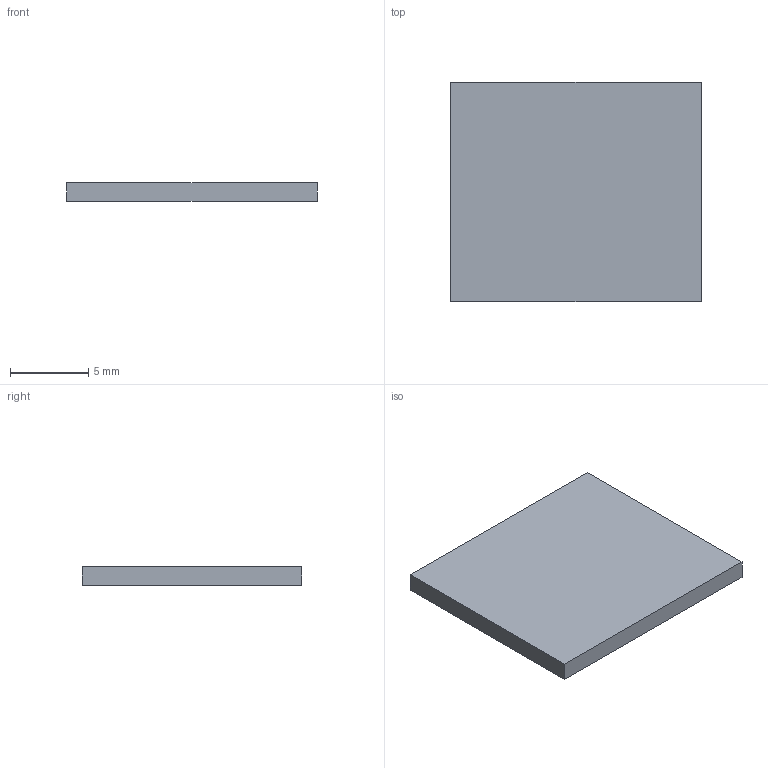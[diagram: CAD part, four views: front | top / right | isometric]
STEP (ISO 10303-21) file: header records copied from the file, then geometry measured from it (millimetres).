
FILE_DESCRIPTION(('Open CASCADE Model'),'2;1');
FILE_NAME('Open CASCADE Shape Model','2026-09-08T11:15:49',('Author'),( 'Open CASCADE'),'Open CASCADE STEP processor 7.7','Open CASCADE 7.7' ,'Unknown');
FILE_SCHEMA(('AUTOMOTIVE_DESIGN { 1 0 10303 214 1 1 1 1 }'));
Length unit declared in the file: millimetre
Products named in the file (1): Open CASCADE STEP translator 7.7 36
Bounding box: 16 x 14 x 1.2 mm (x, y, z)
Volume: 268.8 mm3; surface area: 520 mm2
Topology: 1 solids, 1 shells, 6 faces, 12 edges, 8 vertices
Faces by surface type: plane 6
Entity records: 322 total; most frequent: CARTESIAN_POINT 51, DIRECTION 50, LINE 36, VECTOR 36, ORIENTED_EDGE 24, PCURVE 24, DEFINITIONAL_REPRESENTATION 24, EDGE_CURVE 12
